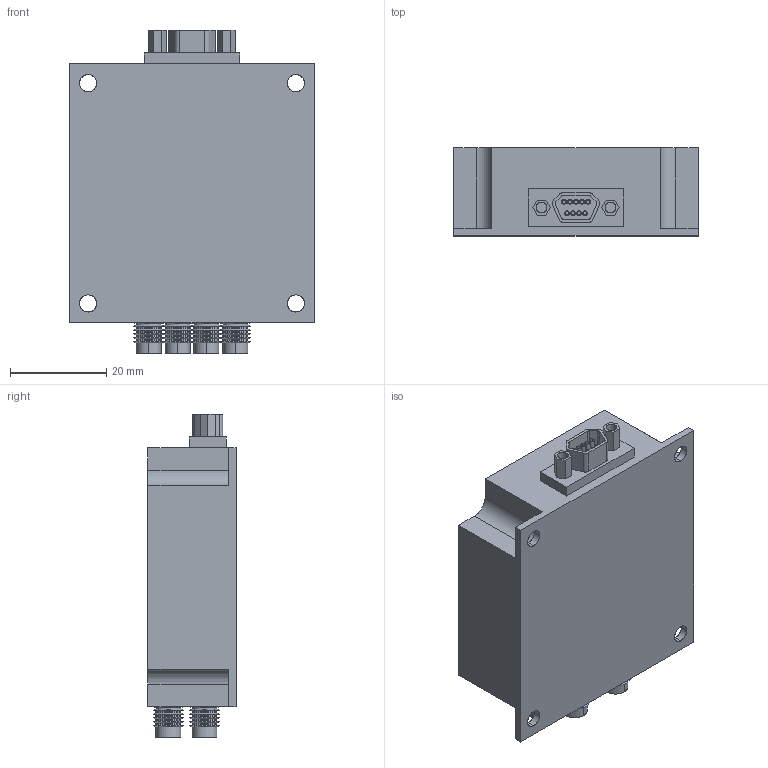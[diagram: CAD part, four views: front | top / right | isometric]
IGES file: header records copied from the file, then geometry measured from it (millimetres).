
Start section: SolidWorks IGES file using analytic representation for surfaces
Global section: file name: C:\Documents and Settings\Administrator\My Documents\EDI\3D\KD5100\kd5100.IGS; native system: SolidWorks 2008; preprocessor: SolidWorks 2008; author: Administrator; date: 100305.130037; units: millimetre
Bounding box: 50.8 x 18.33 x 67.3 mm (x, y, z)
Surface area: 11973.4 mm2 (no closed solid volume)
Topology: 0 solids, 0 shells, 422 faces, 3466 edges, 3466 vertices
Faces by surface type: revolution 330, bspline 92
